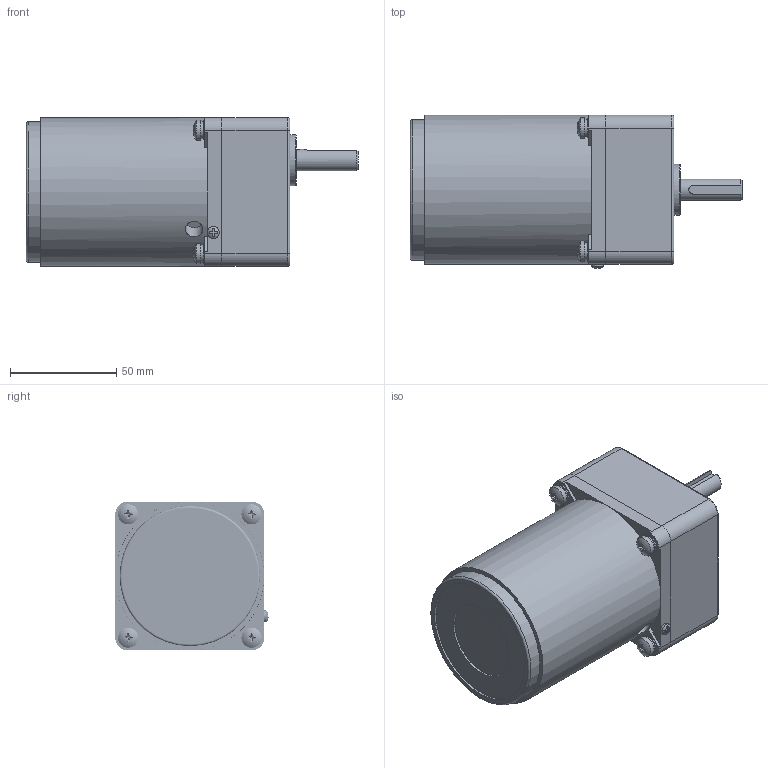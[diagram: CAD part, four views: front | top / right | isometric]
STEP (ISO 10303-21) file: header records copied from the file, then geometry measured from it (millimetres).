
FILE_DESCRIPTION(/* description */ (''),/* implementation_level */ '2;1');
FILE_NAME(/* name */ '70矮箱L-25普通.stp',/* time_stamp */ '2022-10-31T09:40:41+08:00',/* author */ (''),/* organization */ (''),/* preprocessor_version */ 'ST-DEVELOPER v16.7',/* originating_system */ 'SIEMENS PLM Software NX 1899',/* authorisation */ '');
FILE_SCHEMA (('AP203_CONFIGURATION_CONTROLLED_3D_DESIGN_OF_MECHANICAL_PARTS_AND_ASSEMBLIES_MIM_LF { 1 0 10303 403 2 1 2}'));
Products named in the file (1): yf186188FEB6lcbt
Bounding box: 156 x 72.04 x 70 mm (x, y, z)
Volume: 510938.5 mm3; surface area: 57684.9 mm2
Topology: 14 solids, 15 shells, 297 faces, 745 edges, 497 vertices
Faces by surface type: plane 120, bspline 88, cylinder 66, torus 11, cone 7, sphere 5
Full cylindrical faces by diameter (mm): 2.7 x1, 4.826 x4, 5 x4, 5.3 x4, 5.6 x1, 6 x5, 8.3 x1, 9 x4, 9.5 x4, 10 x1, 24 x1, 37 x1, 60 x1, 63 x1, 66 x1, 66.6 x2, 70 x1
Entity records: 54461 total; most frequent: CARTESIAN_POINT 47923, ORIENTED_EDGE 1308, DIRECTION 1037, EDGE_CURVE 654, VERTEX_POINT 460, AXIS2_PLACEMENT_3D 429, EDGE_LOOP 393, ADVANCED_FACE 297
